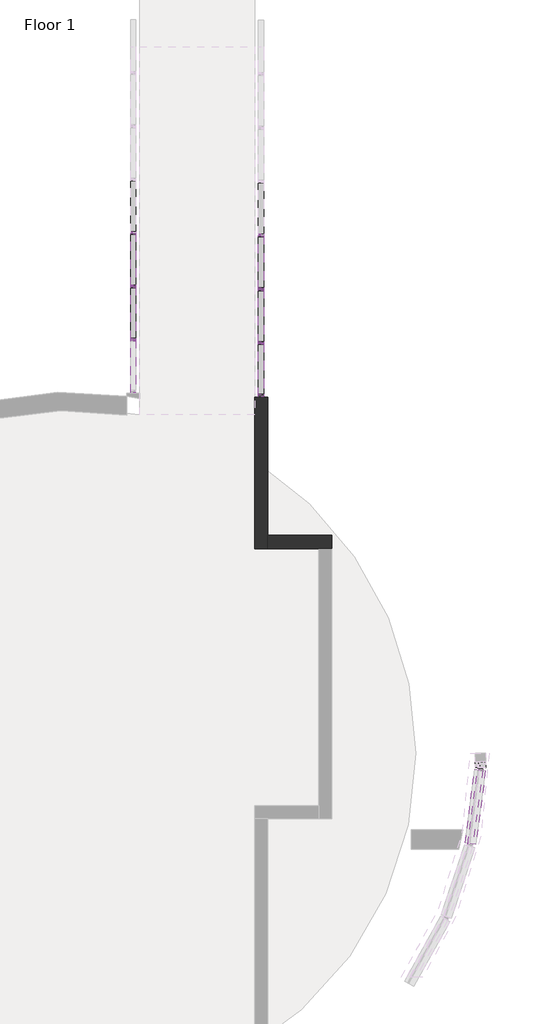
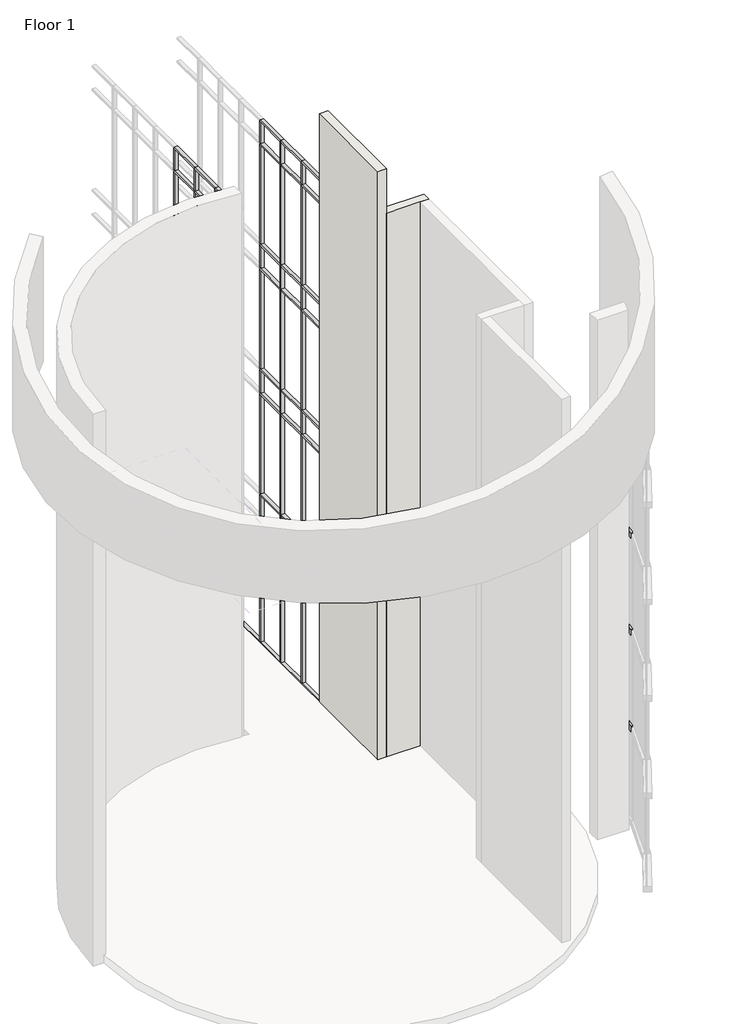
# One storey, part 7 of 11: 111 members, 2 walls.
"""IFC4 building model written with IfcOpenShell, lengths in millimetres."""

from ifc_helpers import new_model, si_unit, origin, place, context, project, spatial, faceted_brep, transform, mapped, element, save
from components import member_5d07894b, member_c86c7f77, member_60e3aab2, member_3ba9e939, member_ad567e07, member_7db1855a, member_5783932f, member_98b79ab6, member_810865a4, member_b9454cfc, member_c17f1be2, member_d2e7e466, member_bbf28ac8, member_5c8c9790, member_93925f5f, member_707c4438

model = new_model("IFC4")

# Units and contexts
model_context = context("Model", 3, world=origin())
ifc_project = project(units=[si_unit("LENGTHUNIT", "METRE", prefix="MILLI")], contexts=[model_context])

# Site, building, storey
site = spatial("IfcSite", under=ifc_project)
building = spatial("IfcBuilding", under=site)
storey = spatial("IfcBuildingStorey", under=building, Name="Floor 1", Elevation=0.0)

# Members
placement = place(None, origin())
member_shape = member_5d07894b(model_context)
element("IfcMember", 1, ObjectType="Rectangular Mullion1 : 2.5\" x 5\" rectangular", at=placement, inside=storey, context=model_context, shape_type="MappedRepresentation", body=[
    mapped(member_shape, transform((10878.8276119, 30390.311889, -88.9), x_axis=(0.0, 1.0, 0.0), y_axis=(1.0, 0.0, 0.0), z_axis=(0.0, 0.0, -1.0))),
])
element("IfcMember", 2, ObjectType="Rectangular Mullion1 : 2.5\" x 5\" rectangular", at=placement, inside=storey, context=model_context, shape_type="MappedRepresentation", body=[
    mapped(member_shape, transform((10878.8276119, 29107.611889, -88.9), x_axis=(0.0, 1.0, 0.0), y_axis=(1.0, 0.0, 0.0), z_axis=(0.0, 0.0, -1.0))),
])
element("IfcMember", 3, ObjectType="Rectangular Mullion1 : 2.5\" x 5\" rectangular", at=placement, inside=storey, context=model_context, shape_type="MappedRepresentation", body=[
    mapped(member_shape, transform((10878.8276119, 31673.011889, -88.9), x_axis=(0.0, 1.0, 0.0), y_axis=(1.0, 0.0, 0.0), z_axis=(0.0, 0.0, -1.0))),
])
element("IfcMember", 4, ObjectType="Rectangular Mullion1 : 2.5\" x 5\" rectangular", at=placement, inside=storey, context=model_context, shape_type="MappedRepresentation", body=[
    mapped(member_shape, transform((7830.8276119, 30460.5181066, -88.9), x_axis=(0.0, 1.0, 0.0), y_axis=(1.0, 0.0, 0.0), z_axis=(0.0, 0.0, -1.0))),
])
element("IfcMember", 5, ObjectType="Rectangular Mullion1 : 2.5\" x 5\" rectangular", at=placement, inside=storey, context=model_context, shape_type="MappedRepresentation", body=[
    mapped(member_shape, transform((7830.8276119, 31731.5170704, -88.9), x_axis=(0.0, 1.0, 0.0), y_axis=(1.0, 0.0, 0.0), z_axis=(0.0, 0.0, -1.0))),
])
member_2_shape = member_c86c7f77(model_context)
element("IfcMember", 6, ObjectType="Rectangular Mullion1 : 2.5\" x 5\" rectangular", at=placement, inside=storey, context=model_context, shape_type="MappedRepresentation", body=[
    mapped(member_2_shape, transform((7830.8276119, 31731.5170704, 5486.4), x_axis=(0.0, 0.0, 1.0), y_axis=(1.0, 0.0, 0.0), z_axis=(0.0, 1.0, 0.0))),
])
element("IfcMember", 7, ObjectType="Rectangular Mullion1 : 2.5\" x 5\" rectangular", at=placement, inside=storey, context=model_context, shape_type="MappedRepresentation", body=[
    mapped(member_2_shape, transform((7830.8276119, 30460.5181066, 5486.4), x_axis=(0.0, 0.0, 1.0), y_axis=(1.0, 0.0, 0.0), z_axis=(0.0, 1.0, 0.0))),
])
element("IfcMember", 8, ObjectType="Rectangular Mullion1 : 2.5\" x 5\" rectangular", at=placement, inside=storey, context=model_context, shape_type="MappedRepresentation", body=[
    mapped(member_2_shape, transform((7830.8276119, 31731.5170704, 10210.8), x_axis=(0.0, 0.0, 1.0), y_axis=(1.0, 0.0, 0.0), z_axis=(0.0, 1.0, 0.0))),
])
element("IfcMember", 9, ObjectType="Rectangular Mullion1 : 2.5\" x 5\" rectangular", at=placement, inside=storey, context=model_context, shape_type="MappedRepresentation", body=[
    mapped(member_2_shape, transform((7830.8276119, 30460.5181066, 10210.8), x_axis=(0.0, 0.0, 1.0), y_axis=(1.0, 0.0, 0.0), z_axis=(0.0, 1.0, 0.0))),
])
element("IfcMember", 10, ObjectType="Rectangular Mullion1 : 2.5\" x 5\" rectangular", at=placement, inside=storey, context=model_context, shape_type="MappedRepresentation", body=[
    mapped(member_2_shape, transform((7830.8276119, 31731.5170704, 14935.2), x_axis=(0.0, 0.0, 1.0), y_axis=(1.0, 0.0, 0.0), z_axis=(0.0, 1.0, 0.0))),
])
element("IfcMember", 11, ObjectType="Rectangular Mullion1 : 2.5\" x 5\" rectangular", at=placement, inside=storey, context=model_context, shape_type="MappedRepresentation", body=[
    mapped(member_2_shape, transform((7830.8276119, 30460.5181066, 14935.2), x_axis=(0.0, 0.0, 1.0), y_axis=(1.0, 0.0, 0.0), z_axis=(0.0, 1.0, 0.0))),
])
element("IfcMember", 12, ObjectType="Rectangular Mullion1 : 2.5\" x 5\" rectangular", at=placement, inside=storey, context=model_context, shape_type="MappedRepresentation", body=[
    mapped(member_2_shape, transform((7830.8276119, 31731.5170704, 18745.2), x_axis=(0.0, 0.0, 1.0), y_axis=(1.0, 0.0, 0.0), z_axis=(0.0, 1.0, 0.0))),
])
element("IfcMember", 13, ObjectType="Rectangular Mullion1 : 2.5\" x 5\" rectangular", at=placement, inside=storey, context=model_context, shape_type="MappedRepresentation", body=[
    mapped(member_2_shape, transform((7830.8276119, 30460.5181066, 18745.2), x_axis=(0.0, 0.0, 1.0), y_axis=(1.0, 0.0, 0.0), z_axis=(0.0, 1.0, 0.0))),
])
element("IfcMember", 14, ObjectType="Rectangular Mullion1 : 2.5\" x 5\" rectangular", at=placement, inside=storey, context=model_context, shape_type="MappedRepresentation", body=[
    mapped(member_2_shape, transform((7830.8276119, 31731.5170704, 14020.8), x_axis=(0.0, 0.0, 1.0), y_axis=(1.0, 0.0, 0.0), z_axis=(0.0, 1.0, 0.0))),
])
element("IfcMember", 15, ObjectType="Rectangular Mullion1 : 2.5\" x 5\" rectangular", at=placement, inside=storey, context=model_context, shape_type="MappedRepresentation", body=[
    mapped(member_2_shape, transform((7830.8276119, 30460.5181066, 14020.8), x_axis=(0.0, 0.0, 1.0), y_axis=(1.0, 0.0, 0.0), z_axis=(0.0, 1.0, 0.0))),
])
element("IfcMember", 16, ObjectType="Rectangular Mullion1 : 2.5\" x 5\" rectangular", at=placement, inside=storey, context=model_context, shape_type="MappedRepresentation", body=[
    mapped(member_2_shape, transform((7830.8276119, 31731.5170704, 9296.4), x_axis=(0.0, 0.0, 1.0), y_axis=(1.0, 0.0, 0.0), z_axis=(0.0, 1.0, 0.0))),
])
element("IfcMember", 17, ObjectType="Rectangular Mullion1 : 2.5\" x 5\" rectangular", at=placement, inside=storey, context=model_context, shape_type="MappedRepresentation", body=[
    mapped(member_2_shape, transform((7830.8276119, 30460.5181066, 9296.4), x_axis=(0.0, 0.0, 1.0), y_axis=(1.0, 0.0, 0.0), z_axis=(0.0, 1.0, 0.0))),
])
element("IfcMember", 18, ObjectType="Rectangular Mullion1 : 2.5\" x 5\" rectangular", at=placement, inside=storey, context=model_context, shape_type="MappedRepresentation", body=[
    mapped(member_2_shape, transform((7830.8276119, 31731.5170704, 4572.0), x_axis=(0.0, 0.0, 1.0), y_axis=(1.0, 0.0, 0.0), z_axis=(0.0, 1.0, 0.0))),
])
element("IfcMember", 19, ObjectType="Rectangular Mullion1 : 2.5\" x 5\" rectangular", at=placement, inside=storey, context=model_context, shape_type="MappedRepresentation", body=[
    mapped(member_2_shape, transform((7830.8276119, 30460.5181066, 4572.0), x_axis=(0.0, 0.0, 1.0), y_axis=(1.0, 0.0, 0.0), z_axis=(0.0, 1.0, 0.0))),
])
member_3_shape = member_60e3aab2(model_context)
element("IfcMember", 20, ObjectType="Rectangular Mullion1 : 2.5\" x 5\" rectangular", at=placement, inside=storey, context=model_context, shape_type="MappedRepresentation", body=[
    mapped(member_3_shape, transform((7830.8276119, 30460.5181066, -152.4), x_axis=(0.0, 0.0, -1.0), y_axis=(1.0, 0.0, 0.0), z_axis=(0.0, -1.0, 0.0))),
])
element("IfcMember", 21, ObjectType="Rectangular Mullion1 : 2.5\" x 5\" rectangular", at=placement, inside=storey, context=model_context, shape_type="MappedRepresentation", body=[
    mapped(member_3_shape, transform((7830.8276119, 31731.5170704, -152.4), x_axis=(0.0, 0.0, -1.0), y_axis=(1.0, 0.0, 0.0), z_axis=(0.0, -1.0, 0.0))),
])
element("IfcMember", 22, ObjectType="Rectangular Mullion1 : 2.5\" x 5\" rectangular", at=placement, inside=storey, context=model_context, shape_type="MappedRepresentation", body=[
    mapped(member_3_shape, transform((7830.8276119, 29189.5191429, -152.4), x_axis=(0.0, 0.0, -1.0), y_axis=(1.0, 0.0, 0.0), z_axis=(0.0, -1.0, 0.0))),
])
element("IfcMember", 23, ObjectType="Rectangular Mullion1 : 2.5\" x 5\" rectangular", at=placement, inside=storey, context=model_context, shape_type="MappedRepresentation", body=[
    mapped(member_3_shape, transform((7830.8276119, 30460.5181066, 19659.6), x_axis=(0.0, 0.0, 1.0), y_axis=(1.0, 0.0, 0.0), z_axis=(0.0, 1.0, 0.0))),
])
element("IfcMember", 24, ObjectType="Rectangular Mullion1 : 2.5\" x 5\" rectangular", at=placement, inside=storey, context=model_context, shape_type="MappedRepresentation", body=[
    mapped(member_3_shape, transform((7830.8276119, 31731.5170704, 19659.6), x_axis=(0.0, 0.0, 1.0), y_axis=(1.0, 0.0, 0.0), z_axis=(0.0, 1.0, 0.0))),
])
element("IfcMember", 25, ObjectType="Rectangular Mullion1 : 2.5\" x 5\" rectangular", at=placement, inside=storey, context=model_context, shape_type="MappedRepresentation", body=[
    mapped(member_3_shape, transform((7830.8276119, 29189.5191429, 19659.6), x_axis=(0.0, 0.0, 1.0), y_axis=(1.0, 0.0, 0.0), z_axis=(0.0, 1.0, 0.0))),
])
member_4_shape = member_3ba9e939(model_context)
element("IfcMember", 26, ObjectType="Rectangular Mullion1 : 2.5\" x 5\" rectangular", at=placement, inside=storey, context=model_context, shape_type="MappedRepresentation", body=[
    mapped(member_4_shape, transform((10878.8276119, 30390.311889, 14966.95), x_axis=(0.0, 1.0, 0.0), y_axis=(1.0, 0.0, 0.0), z_axis=(0.0, 0.0, -1.0))),
])
element("IfcMember", 27, ObjectType="Rectangular Mullion1 : 2.5\" x 5\" rectangular", at=placement, inside=storey, context=model_context, shape_type="MappedRepresentation", body=[
    mapped(member_4_shape, transform((10878.8276119, 30390.311889, 10242.55), x_axis=(0.0, 1.0, 0.0), y_axis=(1.0, 0.0, 0.0), z_axis=(0.0, 0.0, -1.0))),
])
element("IfcMember", 28, ObjectType="Rectangular Mullion1 : 2.5\" x 5\" rectangular", at=placement, inside=storey, context=model_context, shape_type="MappedRepresentation", body=[
    mapped(member_4_shape, transform((10878.8276119, 30390.311889, 5518.15), x_axis=(0.0, 1.0, 0.0), y_axis=(1.0, 0.0, 0.0), z_axis=(0.0, 0.0, -1.0))),
])
element("IfcMember", 29, ObjectType="Rectangular Mullion1 : 2.5\" x 5\" rectangular", at=placement, inside=storey, context=model_context, shape_type="MappedRepresentation", body=[
    mapped(member_4_shape, transform((10878.8276119, 29107.611889, 14966.95), x_axis=(0.0, 1.0, 0.0), y_axis=(1.0, 0.0, 0.0), z_axis=(0.0, 0.0, -1.0))),
])
element("IfcMember", 30, ObjectType="Rectangular Mullion1 : 2.5\" x 5\" rectangular", at=placement, inside=storey, context=model_context, shape_type="MappedRepresentation", body=[
    mapped(member_4_shape, transform((10878.8276119, 29107.611889, 10242.55), x_axis=(0.0, 1.0, 0.0), y_axis=(1.0, 0.0, 0.0), z_axis=(0.0, 0.0, -1.0))),
])
element("IfcMember", 31, ObjectType="Rectangular Mullion1 : 2.5\" x 5\" rectangular", at=placement, inside=storey, context=model_context, shape_type="MappedRepresentation", body=[
    mapped(member_4_shape, transform((10878.8276119, 29107.611889, 5518.15), x_axis=(0.0, 1.0, 0.0), y_axis=(1.0, 0.0, 0.0), z_axis=(0.0, 0.0, -1.0))),
])
element("IfcMember", 32, ObjectType="Rectangular Mullion1 : 2.5\" x 5\" rectangular", at=placement, inside=storey, context=model_context, shape_type="MappedRepresentation", body=[
    mapped(member_4_shape, transform((10878.8276119, 31673.011889, 14966.95), x_axis=(0.0, 1.0, 0.0), y_axis=(1.0, 0.0, 0.0), z_axis=(0.0, 0.0, -1.0))),
])
element("IfcMember", 33, ObjectType="Rectangular Mullion1 : 2.5\" x 5\" rectangular", at=placement, inside=storey, context=model_context, shape_type="MappedRepresentation", body=[
    mapped(member_4_shape, transform((10878.8276119, 31673.011889, 10242.55), x_axis=(0.0, 1.0, 0.0), y_axis=(1.0, 0.0, 0.0), z_axis=(0.0, 0.0, -1.0))),
])
element("IfcMember", 34, ObjectType="Rectangular Mullion1 : 2.5\" x 5\" rectangular", at=placement, inside=storey, context=model_context, shape_type="MappedRepresentation", body=[
    mapped(member_4_shape, transform((10878.8276119, 31673.011889, 5518.15), x_axis=(0.0, 1.0, 0.0), y_axis=(1.0, 0.0, 0.0), z_axis=(0.0, 0.0, -1.0))),
])
element("IfcMember", 35, ObjectType="Rectangular Mullion1 : 2.5\" x 5\" rectangular", at=placement, inside=storey, context=model_context, shape_type="MappedRepresentation", body=[
    mapped(member_4_shape, transform((7830.8276119, 30460.5181066, 5518.15), x_axis=(0.0, 1.0, 0.0), y_axis=(1.0, 0.0, 0.0), z_axis=(0.0, 0.0, -1.0))),
])
element("IfcMember", 36, ObjectType="Rectangular Mullion1 : 2.5\" x 5\" rectangular", at=placement, inside=storey, context=model_context, shape_type="MappedRepresentation", body=[
    mapped(member_4_shape, transform((7830.8276119, 30460.5181066, 10242.55), x_axis=(0.0, 1.0, 0.0), y_axis=(1.0, 0.0, 0.0), z_axis=(0.0, 0.0, -1.0))),
])
element("IfcMember", 37, ObjectType="Rectangular Mullion1 : 2.5\" x 5\" rectangular", at=placement, inside=storey, context=model_context, shape_type="MappedRepresentation", body=[
    mapped(member_4_shape, transform((7830.8276119, 30460.5181066, 14966.95), x_axis=(0.0, 1.0, 0.0), y_axis=(1.0, 0.0, 0.0), z_axis=(0.0, 0.0, -1.0))),
])
element("IfcMember", 38, ObjectType="Rectangular Mullion1 : 2.5\" x 5\" rectangular", at=placement, inside=storey, context=model_context, shape_type="MappedRepresentation", body=[
    mapped(member_4_shape, transform((7830.8276119, 31731.5170704, 5518.15), x_axis=(0.0, 1.0, 0.0), y_axis=(1.0, 0.0, 0.0), z_axis=(0.0, 0.0, -1.0))),
])
element("IfcMember", 39, ObjectType="Rectangular Mullion1 : 2.5\" x 5\" rectangular", at=placement, inside=storey, context=model_context, shape_type="MappedRepresentation", body=[
    mapped(member_4_shape, transform((7830.8276119, 31731.5170704, 10242.55), x_axis=(0.0, 1.0, 0.0), y_axis=(1.0, 0.0, 0.0), z_axis=(0.0, 0.0, -1.0))),
])
element("IfcMember", 40, ObjectType="Rectangular Mullion1 : 2.5\" x 5\" rectangular", at=placement, inside=storey, context=model_context, shape_type="MappedRepresentation", body=[
    mapped(member_4_shape, transform((7830.8276119, 31731.5170704, 14966.95), x_axis=(0.0, 1.0, 0.0), y_axis=(1.0, 0.0, 0.0), z_axis=(0.0, 0.0, -1.0))),
])
element("IfcMember", 41, ObjectType="Rectangular Mullion1 : 2.5\" x 5\" rectangular", at=placement, inside=storey, context=model_context, shape_type="MappedRepresentation", body=[
    mapped(member_4_shape, transform((7830.8276119, 29189.5191429, 5518.15), x_axis=(0.0, 1.0, 0.0), y_axis=(1.0, 0.0, 0.0), z_axis=(0.0, 0.0, -1.0))),
])
element("IfcMember", 42, ObjectType="Rectangular Mullion1 : 2.5\" x 5\" rectangular", at=placement, inside=storey, context=model_context, shape_type="MappedRepresentation", body=[
    mapped(member_4_shape, transform((7830.8276119, 29189.5191429, 10242.55), x_axis=(0.0, 1.0, 0.0), y_axis=(1.0, 0.0, 0.0), z_axis=(0.0, 0.0, -1.0))),
])
element("IfcMember", 43, ObjectType="Rectangular Mullion1 : 2.5\" x 5\" rectangular", at=placement, inside=storey, context=model_context, shape_type="MappedRepresentation", body=[
    mapped(member_4_shape, transform((7830.8276119, 29189.5191429, 14966.95), x_axis=(0.0, 1.0, 0.0), y_axis=(1.0, 0.0, 0.0), z_axis=(0.0, 0.0, -1.0))),
])
member_5_shape = member_ad567e07(model_context)
element("IfcMember", 44, ObjectType="Rectangular Mullion1 : 2.5\" x 5\" rectangular", at=placement, inside=storey, context=model_context, shape_type="MappedRepresentation", body=[
    mapped(member_5_shape, transform((10878.8276119, 30390.311889, 18776.95), x_axis=(0.0, 1.0, 0.0), y_axis=(1.0, 0.0, 0.0), z_axis=(0.0, 0.0, -1.0))),
])
element("IfcMember", 45, ObjectType="Rectangular Mullion1 : 2.5\" x 5\" rectangular", at=placement, inside=storey, context=model_context, shape_type="MappedRepresentation", body=[
    mapped(member_5_shape, transform((10878.8276119, 29107.611889, 18776.95), x_axis=(0.0, 1.0, 0.0), y_axis=(1.0, 0.0, 0.0), z_axis=(0.0, 0.0, -1.0))),
])
element("IfcMember", 46, ObjectType="Rectangular Mullion1 : 2.5\" x 5\" rectangular", at=placement, inside=storey, context=model_context, shape_type="MappedRepresentation", body=[
    mapped(member_5_shape, transform((10878.8276119, 31673.011889, 18776.95), x_axis=(0.0, 1.0, 0.0), y_axis=(1.0, 0.0, 0.0), z_axis=(0.0, 0.0, -1.0))),
])
element("IfcMember", 47, ObjectType="Rectangular Mullion1 : 2.5\" x 5\" rectangular", at=placement, inside=storey, context=model_context, shape_type="MappedRepresentation", body=[
    mapped(member_5_shape, transform((7830.8276119, 30460.5181066, 18776.95), x_axis=(0.0, 1.0, 0.0), y_axis=(1.0, 0.0, 0.0), z_axis=(0.0, 0.0, -1.0))),
])
element("IfcMember", 48, ObjectType="Rectangular Mullion1 : 2.5\" x 5\" rectangular", at=placement, inside=storey, context=model_context, shape_type="MappedRepresentation", body=[
    mapped(member_5_shape, transform((7830.8276119, 31731.5170704, 18776.95), x_axis=(0.0, 1.0, 0.0), y_axis=(1.0, 0.0, 0.0), z_axis=(0.0, 0.0, -1.0))),
])
element("IfcMember", 49, ObjectType="Rectangular Mullion1 : 2.5\" x 5\" rectangular", at=placement, inside=storey, context=model_context, shape_type="MappedRepresentation", body=[
    mapped(member_5_shape, transform((7830.8276119, 29189.5191429, 18776.95), x_axis=(0.0, 1.0, 0.0), y_axis=(1.0, 0.0, 0.0), z_axis=(0.0, 0.0, -1.0))),
])
member_6_shape = member_7db1855a(model_context)
element("IfcMember", 50, ObjectType="Rectangular Mullion1 : 2.5\" x 5\" rectangular", at=placement, inside=storey, context=model_context, shape_type="MappedRepresentation", body=[
    mapped(member_6_shape, transform((10878.8276119, 30390.311889, 9328.15), x_axis=(0.0, 1.0, 0.0), y_axis=(1.0, 0.0, 0.0), z_axis=(0.0, 0.0, -1.0))),
])
element("IfcMember", 51, ObjectType="Rectangular Mullion1 : 2.5\" x 5\" rectangular", at=placement, inside=storey, context=model_context, shape_type="MappedRepresentation", body=[
    mapped(member_6_shape, transform((10878.8276119, 30390.311889, 4603.75), x_axis=(0.0, 1.0, 0.0), y_axis=(1.0, 0.0, 0.0), z_axis=(0.0, 0.0, -1.0))),
])
element("IfcMember", 52, ObjectType="Rectangular Mullion1 : 2.5\" x 5\" rectangular", at=placement, inside=storey, context=model_context, shape_type="MappedRepresentation", body=[
    mapped(member_6_shape, transform((10878.8276119, 30390.311889, 14052.55), x_axis=(0.0, 1.0, 0.0), y_axis=(1.0, 0.0, 0.0), z_axis=(0.0, 0.0, -1.0))),
])
element("IfcMember", 53, ObjectType="Rectangular Mullion1 : 2.5\" x 5\" rectangular", at=placement, inside=storey, context=model_context, shape_type="MappedRepresentation", body=[
    mapped(member_6_shape, transform((10878.8276119, 29107.611889, 9328.15), x_axis=(0.0, 1.0, 0.0), y_axis=(1.0, 0.0, 0.0), z_axis=(0.0, 0.0, -1.0))),
])
element("IfcMember", 54, ObjectType="Rectangular Mullion1 : 2.5\" x 5\" rectangular", at=placement, inside=storey, context=model_context, shape_type="MappedRepresentation", body=[
    mapped(member_6_shape, transform((10878.8276119, 29107.611889, 4603.75), x_axis=(0.0, 1.0, 0.0), y_axis=(1.0, 0.0, 0.0), z_axis=(0.0, 0.0, -1.0))),
])
element("IfcMember", 55, ObjectType="Rectangular Mullion1 : 2.5\" x 5\" rectangular", at=placement, inside=storey, context=model_context, shape_type="MappedRepresentation", body=[
    mapped(member_6_shape, transform((10878.8276119, 29107.611889, 14052.55), x_axis=(0.0, 1.0, 0.0), y_axis=(1.0, 0.0, 0.0), z_axis=(0.0, 0.0, -1.0))),
])
element("IfcMember", 56, ObjectType="Rectangular Mullion1 : 2.5\" x 5\" rectangular", at=placement, inside=storey, context=model_context, shape_type="MappedRepresentation", body=[
    mapped(member_6_shape, transform((10878.8276119, 31673.011889, 9328.15), x_axis=(0.0, 1.0, 0.0), y_axis=(1.0, 0.0, 0.0), z_axis=(0.0, 0.0, -1.0))),
])
element("IfcMember", 57, ObjectType="Rectangular Mullion1 : 2.5\" x 5\" rectangular", at=placement, inside=storey, context=model_context, shape_type="MappedRepresentation", body=[
    mapped(member_6_shape, transform((10878.8276119, 31673.011889, 4603.75), x_axis=(0.0, 1.0, 0.0), y_axis=(1.0, 0.0, 0.0), z_axis=(0.0, 0.0, -1.0))),
])
element("IfcMember", 58, ObjectType="Rectangular Mullion1 : 2.5\" x 5\" rectangular", at=placement, inside=storey, context=model_context, shape_type="MappedRepresentation", body=[
    mapped(member_6_shape, transform((10878.8276119, 31673.011889, 14052.55), x_axis=(0.0, 1.0, 0.0), y_axis=(1.0, 0.0, 0.0), z_axis=(0.0, 0.0, -1.0))),
])
element("IfcMember", 59, ObjectType="Rectangular Mullion1 : 2.5\" x 5\" rectangular", at=placement, inside=storey, context=model_context, shape_type="MappedRepresentation", body=[
    mapped(member_6_shape, transform((7830.8276119, 30460.5181066, 14052.55), x_axis=(0.0, 1.0, 0.0), y_axis=(1.0, 0.0, 0.0), z_axis=(0.0, 0.0, -1.0))),
])
element("IfcMember", 60, ObjectType="Rectangular Mullion1 : 2.5\" x 5\" rectangular", at=placement, inside=storey, context=model_context, shape_type="MappedRepresentation", body=[
    mapped(member_6_shape, transform((7830.8276119, 30460.5181066, 9328.15), x_axis=(0.0, 1.0, 0.0), y_axis=(1.0, 0.0, 0.0), z_axis=(0.0, 0.0, -1.0))),
])
element("IfcMember", 61, ObjectType="Rectangular Mullion1 : 2.5\" x 5\" rectangular", at=placement, inside=storey, context=model_context, shape_type="MappedRepresentation", body=[
    mapped(member_6_shape, transform((7830.8276119, 30460.5181066, 4603.75), x_axis=(0.0, 1.0, 0.0), y_axis=(1.0, 0.0, 0.0), z_axis=(0.0, 0.0, -1.0))),
])
element("IfcMember", 62, ObjectType="Rectangular Mullion1 : 2.5\" x 5\" rectangular", at=placement, inside=storey, context=model_context, shape_type="MappedRepresentation", body=[
    mapped(member_6_shape, transform((7830.8276119, 31731.5170704, 14052.55), x_axis=(0.0, 1.0, 0.0), y_axis=(1.0, 0.0, 0.0), z_axis=(0.0, 0.0, -1.0))),
])
element("IfcMember", 63, ObjectType="Rectangular Mullion1 : 2.5\" x 5\" rectangular", at=placement, inside=storey, context=model_context, shape_type="MappedRepresentation", body=[
    mapped(member_6_shape, transform((7830.8276119, 31731.5170704, 9328.15), x_axis=(0.0, 1.0, 0.0), y_axis=(1.0, 0.0, 0.0), z_axis=(0.0, 0.0, -1.0))),
])
element("IfcMember", 64, ObjectType="Rectangular Mullion1 : 2.5\" x 5\" rectangular", at=placement, inside=storey, context=model_context, shape_type="MappedRepresentation", body=[
    mapped(member_6_shape, transform((7830.8276119, 31731.5170704, 4603.75), x_axis=(0.0, 1.0, 0.0), y_axis=(1.0, 0.0, 0.0), z_axis=(0.0, 0.0, -1.0))),
])
element("IfcMember", 65, ObjectType="Rectangular Mullion1 : 2.5\" x 5\" rectangular", at=placement, inside=storey, context=model_context, shape_type="MappedRepresentation", body=[
    mapped(member_6_shape, transform((7830.8276119, 29189.5191429, 14052.55), x_axis=(0.0, 1.0, 0.0), y_axis=(1.0, 0.0, 0.0), z_axis=(0.0, 0.0, -1.0))),
])
element("IfcMember", 66, ObjectType="Rectangular Mullion1 : 2.5\" x 5\" rectangular", at=placement, inside=storey, context=model_context, shape_type="MappedRepresentation", body=[
    mapped(member_6_shape, transform((7830.8276119, 29189.5191429, 9328.15), x_axis=(0.0, 1.0, 0.0), y_axis=(1.0, 0.0, 0.0), z_axis=(0.0, 0.0, -1.0))),
])
element("IfcMember", 67, ObjectType="Rectangular Mullion1 : 2.5\" x 5\" rectangular", at=placement, inside=storey, context=model_context, shape_type="MappedRepresentation", body=[
    mapped(member_6_shape, transform((7830.8276119, 29189.5191429, 4603.75), x_axis=(0.0, 1.0, 0.0), y_axis=(1.0, 0.0, 0.0), z_axis=(0.0, 0.0, -1.0))),
])
member_7_shape = member_5783932f(model_context)
element("IfcMember", 68, ObjectType="Rectangular Mullion1 : 2.5\" x 5\" rectangular", at=placement, inside=storey, context=model_context, shape_type="MappedRepresentation", body=[
    mapped(member_7_shape, transform((10878.8276119, 27824.911889, -152.4), x_axis=(0.0, 0.0, -1.0), y_axis=(1.0, 0.0, 0.0), z_axis=(0.0, -1.0, 0.0))),
])
member_8_shape = member_98b79ab6(model_context)
element("IfcMember", 69, ObjectType="Rectangular Mullion1 : 2.5\" x 5\" rectangular", at=placement, inside=storey, context=model_context, shape_type="MappedRepresentation", body=[
    mapped(member_8_shape, transform((10878.8276119, 29107.611889, 14935.2), x_axis=(0.0, 0.0, 1.0), y_axis=(1.0, 0.0, 0.0), z_axis=(0.0, 1.0, 0.0))),
])
element("IfcMember", 70, ObjectType="Rectangular Mullion1 : 2.5\" x 5\" rectangular", at=placement, inside=storey, context=model_context, shape_type="MappedRepresentation", body=[
    mapped(member_8_shape, transform((10878.8276119, 29107.611889, 10210.8), x_axis=(0.0, 0.0, 1.0), y_axis=(1.0, 0.0, 0.0), z_axis=(0.0, 1.0, 0.0))),
])
element("IfcMember", 71, ObjectType="Rectangular Mullion1 : 2.5\" x 5\" rectangular", at=placement, inside=storey, context=model_context, shape_type="MappedRepresentation", body=[
    mapped(member_8_shape, transform((10878.8276119, 29107.611889, 5486.4), x_axis=(0.0, 0.0, 1.0), y_axis=(1.0, 0.0, 0.0), z_axis=(0.0, 1.0, 0.0))),
])
element("IfcMember", 72, ObjectType="Rectangular Mullion1 : 2.5\" x 5\" rectangular", at=placement, inside=storey, context=model_context, shape_type="MappedRepresentation", body=[
    mapped(member_8_shape, transform((10878.8276119, 29107.611889, 9296.4), x_axis=(0.0, 0.0, 1.0), y_axis=(1.0, 0.0, 0.0), z_axis=(0.0, 1.0, 0.0))),
])
element("IfcMember", 73, ObjectType="Rectangular Mullion1 : 2.5\" x 5\" rectangular", at=placement, inside=storey, context=model_context, shape_type="MappedRepresentation", body=[
    mapped(member_8_shape, transform((10878.8276119, 29107.611889, 4572.0), x_axis=(0.0, 0.0, 1.0), y_axis=(1.0, 0.0, 0.0), z_axis=(0.0, 1.0, 0.0))),
])
element("IfcMember", 74, ObjectType="Rectangular Mullion1 : 2.5\" x 5\" rectangular", at=placement, inside=storey, context=model_context, shape_type="MappedRepresentation", body=[
    mapped(member_8_shape, transform((10878.8276119, 29107.611889, 14020.8), x_axis=(0.0, 0.0, 1.0), y_axis=(1.0, 0.0, 0.0), z_axis=(0.0, 1.0, 0.0))),
])
element("IfcMember", 75, ObjectType="Rectangular Mullion1 : 2.5\" x 5\" rectangular", at=placement, inside=storey, context=model_context, shape_type="MappedRepresentation", body=[
    mapped(member_8_shape, transform((10878.8276119, 29107.611889, 18745.2), x_axis=(0.0, 0.0, 1.0), y_axis=(1.0, 0.0, 0.0), z_axis=(0.0, 1.0, 0.0))),
])
element("IfcMember", 76, ObjectType="Rectangular Mullion1 : 2.5\" x 5\" rectangular", at=placement, inside=storey, context=model_context, shape_type="MappedRepresentation", body=[
    mapped(member_8_shape, transform((10878.8276119, 31673.011889, 14935.2), x_axis=(0.0, 0.0, 1.0), y_axis=(1.0, 0.0, 0.0), z_axis=(0.0, 1.0, 0.0))),
])
element("IfcMember", 77, ObjectType="Rectangular Mullion1 : 2.5\" x 5\" rectangular", at=placement, inside=storey, context=model_context, shape_type="MappedRepresentation", body=[
    mapped(member_8_shape, transform((10878.8276119, 30390.311889, 14935.2), x_axis=(0.0, 0.0, 1.0), y_axis=(1.0, 0.0, 0.0), z_axis=(0.0, 1.0, 0.0))),
])
element("IfcMember", 78, ObjectType="Rectangular Mullion1 : 2.5\" x 5\" rectangular", at=placement, inside=storey, context=model_context, shape_type="MappedRepresentation", body=[
    mapped(member_8_shape, transform((10878.8276119, 31673.011889, 10210.8), x_axis=(0.0, 0.0, 1.0), y_axis=(1.0, 0.0, 0.0), z_axis=(0.0, 1.0, 0.0))),
])
element("IfcMember", 79, ObjectType="Rectangular Mullion1 : 2.5\" x 5\" rectangular", at=placement, inside=storey, context=model_context, shape_type="MappedRepresentation", body=[
    mapped(member_8_shape, transform((10878.8276119, 30390.311889, 10210.8), x_axis=(0.0, 0.0, 1.0), y_axis=(1.0, 0.0, 0.0), z_axis=(0.0, 1.0, 0.0))),
])
element("IfcMember", 80, ObjectType="Rectangular Mullion1 : 2.5\" x 5\" rectangular", at=placement, inside=storey, context=model_context, shape_type="MappedRepresentation", body=[
    mapped(member_8_shape, transform((10878.8276119, 31673.011889, 5486.4), x_axis=(0.0, 0.0, 1.0), y_axis=(1.0, 0.0, 0.0), z_axis=(0.0, 1.0, 0.0))),
])
element("IfcMember", 81, ObjectType="Rectangular Mullion1 : 2.5\" x 5\" rectangular", at=placement, inside=storey, context=model_context, shape_type="MappedRepresentation", body=[
    mapped(member_8_shape, transform((10878.8276119, 30390.311889, 5486.4), x_axis=(0.0, 0.0, 1.0), y_axis=(1.0, 0.0, 0.0), z_axis=(0.0, 1.0, 0.0))),
])
element("IfcMember", 82, ObjectType="Rectangular Mullion1 : 2.5\" x 5\" rectangular", at=placement, inside=storey, context=model_context, shape_type="MappedRepresentation", body=[
    mapped(member_8_shape, transform((10878.8276119, 31673.011889, 9296.4), x_axis=(0.0, 0.0, 1.0), y_axis=(1.0, 0.0, 0.0), z_axis=(0.0, 1.0, 0.0))),
])
element("IfcMember", 83, ObjectType="Rectangular Mullion1 : 2.5\" x 5\" rectangular", at=placement, inside=storey, context=model_context, shape_type="MappedRepresentation", body=[
    mapped(member_8_shape, transform((10878.8276119, 30390.311889, 9296.4), x_axis=(0.0, 0.0, 1.0), y_axis=(1.0, 0.0, 0.0), z_axis=(0.0, 1.0, 0.0))),
])
element("IfcMember", 84, ObjectType="Rectangular Mullion1 : 2.5\" x 5\" rectangular", at=placement, inside=storey, context=model_context, shape_type="MappedRepresentation", body=[
    mapped(member_8_shape, transform((10878.8276119, 31673.011889, 4572.0), x_axis=(0.0, 0.0, 1.0), y_axis=(1.0, 0.0, 0.0), z_axis=(0.0, 1.0, 0.0))),
])
element("IfcMember", 85, ObjectType="Rectangular Mullion1 : 2.5\" x 5\" rectangular", at=placement, inside=storey, context=model_context, shape_type="MappedRepresentation", body=[
    mapped(member_8_shape, transform((10878.8276119, 30390.311889, 4572.0), x_axis=(0.0, 0.0, 1.0), y_axis=(1.0, 0.0, 0.0), z_axis=(0.0, 1.0, 0.0))),
])
element("IfcMember", 86, ObjectType="Rectangular Mullion1 : 2.5\" x 5\" rectangular", at=placement, inside=storey, context=model_context, shape_type="MappedRepresentation", body=[
    mapped(member_8_shape, transform((10878.8276119, 31673.011889, 14020.8), x_axis=(0.0, 0.0, 1.0), y_axis=(1.0, 0.0, 0.0), z_axis=(0.0, 1.0, 0.0))),
])
element("IfcMember", 87, ObjectType="Rectangular Mullion1 : 2.5\" x 5\" rectangular", at=placement, inside=storey, context=model_context, shape_type="MappedRepresentation", body=[
    mapped(member_8_shape, transform((10878.8276119, 30390.311889, 14020.8), x_axis=(0.0, 0.0, 1.0), y_axis=(1.0, 0.0, 0.0), z_axis=(0.0, 1.0, 0.0))),
])
element("IfcMember", 88, ObjectType="Rectangular Mullion1 : 2.5\" x 5\" rectangular", at=placement, inside=storey, context=model_context, shape_type="MappedRepresentation", body=[
    mapped(member_8_shape, transform((10878.8276119, 31673.011889, 18745.2), x_axis=(0.0, 0.0, 1.0), y_axis=(1.0, 0.0, 0.0), z_axis=(0.0, 1.0, 0.0))),
])
element("IfcMember", 89, ObjectType="Rectangular Mullion1 : 2.5\" x 5\" rectangular", at=placement, inside=storey, context=model_context, shape_type="MappedRepresentation", body=[
    mapped(member_8_shape, transform((10878.8276119, 30390.311889, 18745.2), x_axis=(0.0, 0.0, 1.0), y_axis=(1.0, 0.0, 0.0), z_axis=(0.0, 1.0, 0.0))),
])
element("IfcMember", 90, ObjectType="Rectangular Mullion1 : 2.5\" x 5\" rectangular", at=placement, inside=storey, context=model_context, shape_type="MappedRepresentation", body=[
    mapped(member_7_shape, transform((10878.8276119, 30390.311889, -152.4), x_axis=(0.0, 0.0, -1.0), y_axis=(1.0, 0.0, 0.0), z_axis=(0.0, -1.0, 0.0))),
])
element("IfcMember", 91, ObjectType="Rectangular Mullion1 : 2.5\" x 5\" rectangular", at=placement, inside=storey, context=model_context, shape_type="MappedRepresentation", body=[
    mapped(member_7_shape, transform((10878.8276119, 29107.611889, -152.4), x_axis=(0.0, 0.0, -1.0), y_axis=(1.0, 0.0, 0.0), z_axis=(0.0, -1.0, 0.0))),
])
element("IfcMember", 92, ObjectType="Rectangular Mullion1 : 2.5\" x 5\" rectangular", at=placement, inside=storey, context=model_context, shape_type="MappedRepresentation", body=[
    mapped(member_7_shape, transform((10878.8276119, 31673.011889, -152.4), x_axis=(0.0, 0.0, -1.0), y_axis=(1.0, 0.0, 0.0), z_axis=(0.0, -1.0, 0.0))),
])
element("IfcMember", 93, ObjectType="Rectangular Mullion1 : 2.5\" x 5\" rectangular", at=placement, inside=storey, context=model_context, shape_type="MappedRepresentation", body=[
    mapped(member_7_shape, transform((10878.8276119, 30390.311889, 19659.6), x_axis=(0.0, 0.0, 1.0), y_axis=(1.0, 0.0, 0.0), z_axis=(0.0, 1.0, 0.0))),
])
element("IfcMember", 94, ObjectType="Rectangular Mullion1 : 2.5\" x 5\" rectangular", at=placement, inside=storey, context=model_context, shape_type="MappedRepresentation", body=[
    mapped(member_7_shape, transform((10878.8276119, 31673.011889, 19659.6), x_axis=(0.0, 0.0, 1.0), y_axis=(1.0, 0.0, 0.0), z_axis=(0.0, 1.0, 0.0))),
])
element("IfcMember", 95, ObjectType="Rectangular Mullion1 : 2.5\" x 5\" rectangular", at=placement, inside=storey, context=model_context, shape_type="MappedRepresentation", body=[
    mapped(member_7_shape, transform((10878.8276119, 29107.611889, 19659.6), x_axis=(0.0, 0.0, 1.0), y_axis=(1.0, 0.0, 0.0), z_axis=(0.0, 1.0, 0.0))),
])
member_9_shape = member_810865a4(model_context)
element("IfcMember", 96, ObjectType="Rectangular Mullion1 : 2.5\" x 5\" rectangular", at=placement, inside=storey, context=model_context, shape_type="MappedRepresentation", body=[
    mapped(member_9_shape, transform((16100.9680149, 18967.1313281, 0.0), x_axis=(0.03847320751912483, 0.9992596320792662, 0.0), y_axis=(0.9992596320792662, -0.03847320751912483, 0.0), z_axis=(0.0, 0.0, -1.0))),
])
member_10_shape = member_b9454cfc(model_context)
element("IfcMember", 97, ObjectType="Rectangular Mullion1 : 2.5\" x 5\" rectangular", at=placement, inside=storey, context=model_context, shape_type="MappedRepresentation", body=[
    mapped(member_10_shape, transform((16096.7690235, 18935.6602148, 17373.6), x_axis=(0.0, 0.0, 1.0), y_axis=(0.9912161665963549, -0.13225169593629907, 0.0), z_axis=(0.13225169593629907, 0.9912161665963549, 0.0))),
])
element("IfcMember", 98, ObjectType="Rectangular Mullion1 : 2.5\" x 5\" rectangular", at=placement, inside=storey, context=model_context, shape_type="MappedRepresentation", body=[
    mapped(member_9_shape, transform((16100.9680149, 18967.1313281, 3657.6), x_axis=(0.03847320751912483, 0.9992596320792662, 0.0), y_axis=(0.9992596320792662, -0.03847320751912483, 0.0), z_axis=(0.0, 0.0, -1.0))),
])
member_11_shape = member_c17f1be2(model_context)
element("IfcMember", 99, ObjectType="Rectangular Mullion1 : 2.5\" x 5\" rectangular", at=placement, inside=storey, context=model_context, shape_type="MappedRepresentation", body=[
    mapped(member_11_shape, transform((10878.8276119, 27824.911889, 19596.1), x_axis=(0.0, -1.0, 0.0), y_axis=(1.0, 0.0, 0.0), z_axis=(0.0, 0.0, 1.0))),
])
member_12_shape = member_d2e7e466(model_context)
element("IfcMember", 100, ObjectType="Rectangular Mullion1 : 2.5\" x 5\" rectangular", at=placement, inside=storey, context=model_context, shape_type="MappedRepresentation", body=[
    mapped(member_12_shape, transform((10878.8276119, 27824.911889, 14903.45), x_axis=(0.0, -1.0, 0.0), y_axis=(1.0, 0.0, 0.0), z_axis=(0.0, 0.0, 1.0))),
])
element("IfcMember", 101, ObjectType="Rectangular Mullion1 : 2.5\" x 5\" rectangular", at=placement, inside=storey, context=model_context, shape_type="MappedRepresentation", body=[
    mapped(member_12_shape, transform((10878.8276119, 27824.911889, 10179.05), x_axis=(0.0, -1.0, 0.0), y_axis=(1.0, 0.0, 0.0), z_axis=(0.0, 0.0, 1.0))),
])
element("IfcMember", 102, ObjectType="Rectangular Mullion1 : 2.5\" x 5\" rectangular", at=placement, inside=storey, context=model_context, shape_type="MappedRepresentation", body=[
    mapped(member_12_shape, transform((10878.8276119, 27824.911889, 5454.65), x_axis=(0.0, -1.0, 0.0), y_axis=(1.0, 0.0, 0.0), z_axis=(0.0, 0.0, 1.0))),
])
member_13_shape = member_bbf28ac8(model_context)
element("IfcMember", 103, ObjectType="Rectangular Mullion1 : 2.5\" x 5\" rectangular", at=placement, inside=storey, context=model_context, shape_type="MappedRepresentation", body=[
    mapped(member_13_shape, transform((10878.8276119, 27824.911889, 9264.65), x_axis=(0.0, -1.0, 0.0), y_axis=(1.0, 0.0, 0.0), z_axis=(0.0, 0.0, 1.0))),
])
element("IfcMember", 104, ObjectType="Rectangular Mullion1 : 2.5\" x 5\" rectangular", at=placement, inside=storey, context=model_context, shape_type="MappedRepresentation", body=[
    mapped(member_13_shape, transform((10878.8276119, 27824.911889, 13989.05), x_axis=(0.0, -1.0, 0.0), y_axis=(1.0, 0.0, 0.0), z_axis=(0.0, 0.0, 1.0))),
])
element("IfcMember", 105, ObjectType="Rectangular Mullion1 : 2.5\" x 5\" rectangular", at=placement, inside=storey, context=model_context, shape_type="MappedRepresentation", body=[
    mapped(member_13_shape, transform((10878.8276119, 27824.911889, 18713.45), x_axis=(0.0, -1.0, 0.0), y_axis=(1.0, 0.0, 0.0), z_axis=(0.0, 0.0, 1.0))),
])
member_14_shape = member_5c8c9790(model_context)
element("IfcMember", 106, ObjectType="Rectangular Mullion1 : 2.5\" x 5\" rectangular", at=placement, inside=storey, context=model_context, shape_type="MappedRepresentation", body=[
    mapped(member_14_shape, transform((10878.8276119, 27824.911889, 4540.25), x_axis=(0.0, -1.0, 0.0), y_axis=(1.0, 0.0, 0.0), z_axis=(0.0, 0.0, 1.0))),
])
member_15_shape = member_93925f5f(model_context)
element("IfcMember", 107, ObjectType="Rectangular Mullion1 : 8\" x 10\" rectangular", at=placement, inside=storey, context=model_context, shape_type="MappedRepresentation", body=[
    mapped(member_15_shape, transform((16101.5788901, 18998.8754509, 0.0), x_axis=(0.0, 0.0, -1.0), y_axis=(0.9998148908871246, -0.019240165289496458, 0.0), z_axis=(-0.019240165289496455, -0.9998148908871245, 0.0))),
])
member_16_shape = member_707c4438(model_context)
element("IfcMember", 108, ObjectType="Rectangular Mullion1 : 8\" x 10\" rectangular", at=placement, inside=storey, context=model_context, shape_type="MappedRepresentation", body=[
    mapped(member_16_shape, transform((16096.7690235, 18935.6602148, 3657.6), x_axis=(0.0, 0.0, 1.0), y_axis=(0.9912161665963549, -0.13225169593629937, 0.0), z_axis=(0.13225169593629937, 0.9912161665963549, 0.0))),
])
element("IfcMember", 109, ObjectType="Rectangular Mullion1 : 8\" x 10\" rectangular", at=placement, inside=storey, context=model_context, shape_type="MappedRepresentation", body=[
    mapped(member_16_shape, transform((16096.7690235, 18935.6602148, 7315.2), x_axis=(0.0, 0.0, 1.0), y_axis=(0.9912161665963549, -0.13225169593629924, 0.0), z_axis=(0.13225169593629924, 0.9912161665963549, 0.0))),
])
element("IfcMember", 110, ObjectType="Rectangular Mullion1 : 8\" x 10\" rectangular", at=placement, inside=storey, context=model_context, shape_type="MappedRepresentation", body=[
    mapped(member_16_shape, transform((16096.7690235, 18935.6602148, 10972.8), x_axis=(0.0, 0.0, 1.0), y_axis=(0.9912161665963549, -0.13225169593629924, 0.0), z_axis=(0.13225169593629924, 0.9912161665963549, 0.0))),
])
element("IfcMember", 111, ObjectType="Rectangular Mullion1 : 8\" x 10\" rectangular", at=placement, inside=storey, context=model_context, shape_type="MappedRepresentation", body=[
    mapped(member_16_shape, transform((16096.7690235, 18935.6602148, 14630.4), x_axis=(0.0, 0.0, 1.0), y_axis=(0.9912161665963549, -0.13225169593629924, 0.0), z_axis=(0.13225169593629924, 0.9912161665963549, 0.0))),
])

# Walls
element("IfcWall", 112, ObjectType="a_Mtl panel on Mtl stud", at=placement, inside=storey, context=model_context, shape_type="Brep", body=[
    faceted_brep([(11034.4026119, 24214.936889, -304.8), (11034.4026119, 27824.911889, -304.8), (11034.4026119, 27824.911889, 19659.6), (11034.4026119, 27824.911889, 22250.4), (11034.4026119, 24214.936889, 22250.4), (11034.4026119, 24214.936889, 20574.0), (11034.4026119, 24214.936889, 19659.6), (11034.4026119, 24214.936889, 0.0), (10723.2526119, 24214.936889, -304.8), (10723.2526119, 24214.936889, 19659.6), (10723.2526119, 24214.936889, 22250.4), (10723.2526119, 27824.911889, 22250.4), (10723.2526119, 27824.911889, 19659.6), (10723.2526119, 27824.911889, -304.8)], [[[0, 1, 2, 3, 4, 5, 6, 7]], [[8, 9, 10, 11, 12, 13]], [[1, 0, 8, 13]], [[3, 2, 1, 13, 12, 11]], [[4, 3, 11, 10]], [[0, 7, 6, 5, 4, 10, 9, 8]]]),
])
element("IfcWall", 113, ObjectType="a_Mtl panel on Mtl stud", at=placement, inside=storey, context=model_context, shape_type="Brep", body=[
    faceted_brep([(11034.4026119, 24214.936889, 0.0), (12247.2526119, 24214.936889, 0.0), (12558.4026119, 24214.936889, 0.0), (12558.4026119, 24214.936889, 20574.0), (12247.2526119, 24214.936889, 20574.0), (11034.4026119, 24214.936889, 20574.0), (11034.4026119, 24526.086889, 0.0), (11034.4026119, 24526.086889, 20574.0), (12558.4026119, 24526.086889, 20574.0), (12558.4026119, 24526.086889, 0.0)], [[[0, 1, 2, 3, 4, 5]], [[6, 7, 8, 9]], [[2, 1, 0, 6, 9]], [[5, 4, 3, 8, 7]], [[3, 2, 9, 8]], [[0, 5, 7, 6]]]),
])

save(model, "model.ifc")
